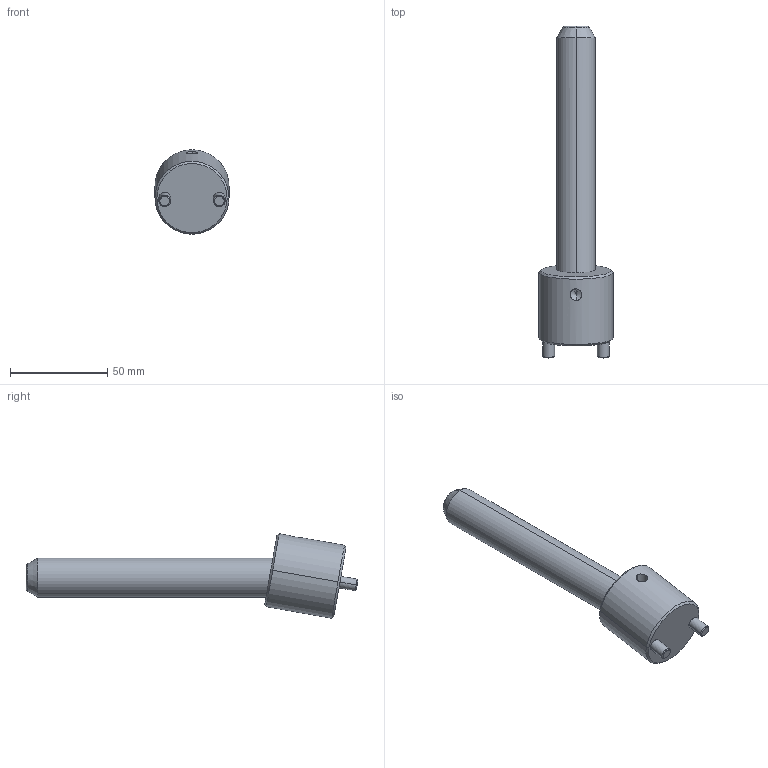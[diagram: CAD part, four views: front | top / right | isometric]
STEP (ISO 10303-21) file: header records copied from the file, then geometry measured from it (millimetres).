
FILE_DESCRIPTION(('CATIA V5 STEP Exchange'),'2;1');
FILE_NAME('C:\Users\Raffaele\Desktop\3D BOLEX\3D FILES CF BOLEX\19-INCLINED ASSEMBLY REF_CI\CI1020125.stp','2019-06-21T13:55:15+00:00',('none'),('none'),'CATIA Version 5 Release 20 GA (IN-10)','CATIA V5 STEP AP203','none');
FILE_SCHEMA(('CONFIG_CONTROL_DESIGN'));
Length unit declared in the file: millimetre
Products named in the file (1): CI1020125
Assembly tree (2 placements, depth 2):
  CI1020125
    #58
    #575
Bounding box: 38 x 170.45 x 43.33 mm (x, y, z)
Volume: 79364.1 mm3; surface area: 19025 mm2
Topology: 2 solids, 2 shells, 39 faces, 82 edges, 47 vertices
Faces by surface type: cone 14, cylinder 14, plane 7, torus 4
Entity records: 1497 total; most frequent: CARTESIAN_POINT 638, ORIENTED_EDGE 160, DIRECTION 145, EDGE_CURVE 80, AXIS2_PLACEMENT_3D 72, VERTEX_POINT 47, EDGE_LOOP 43, ADVANCED_FACE 39
